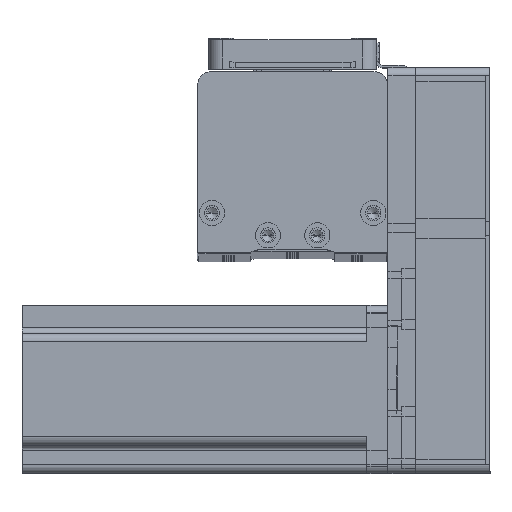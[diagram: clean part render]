
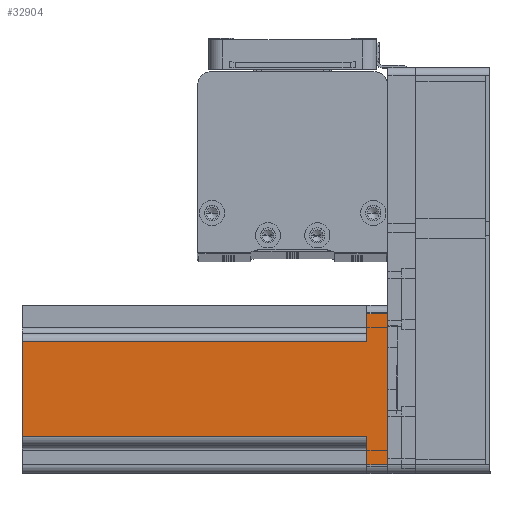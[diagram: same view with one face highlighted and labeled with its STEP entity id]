
A CAD part, top view. The second image highlights one B-rep face of the part: STEP entity #32904.
In plain terms, the highlighted planar face has unit normal (0, 0, 1) as drawn and (0, 1, 0) by its records, which use the part's own axes.
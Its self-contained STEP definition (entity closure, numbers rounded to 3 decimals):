
#794 = CARTESIAN_POINT ( 'NONE',  ( 17., 30., 7.5 ) ) ;
#1066 = VERTEX_POINT ( 'NONE', #47254 ) ;
#1736 = CARTESIAN_POINT ( 'NONE',  ( -27., 30., 7.5 ) ) ;
#2194 = CARTESIAN_POINT ( 'NONE',  ( -17., 30., 7.5 ) ) ;
#3804 = VECTOR ( 'NONE', #53882, 1000. ) ;
#5123 = EDGE_CURVE ( 'NONE', #27758, #1066, #7683, .T. ) ;
#5526 = DIRECTION ( 'NONE',  ( 0., 0., -1. ) ) ;
#7683 = LINE ( 'NONE', #17535, #50566 ) ;
#9000 = DIRECTION ( 'NONE',  ( 0., -1., 0. ) ) ;
#9133 = VERTEX_POINT ( 'NONE', #31824 ) ;
#10372 = VECTOR ( 'NONE', #5526, 1000. ) ;
#10410 = CARTESIAN_POINT ( 'NONE',  ( 30., 30., 0. ) ) ;
#10529 = LINE ( 'NONE', #51125, #52156 ) ;
#10605 = DIRECTION ( 'NONE',  ( -1., 0., 0. ) ) ;
#11549 = VERTEX_POINT ( 'NONE', #24323 ) ;
#11690 = LINE ( 'NONE', #13674, #10372 ) ;
#12945 = PLANE ( 'NONE',  #40637 ) ;
#13674 = CARTESIAN_POINT ( 'NONE',  ( 27., 30., 130.7 ) ) ;
#14589 = VECTOR ( 'NONE', #10605, 1000. ) ;
#17010 = CARTESIAN_POINT ( 'NONE',  ( 17., 30., 130.7 ) ) ;
#17535 = CARTESIAN_POINT ( 'NONE',  ( -17., 30., 130.7 ) ) ;
#20478 = ORIENTED_EDGE ( 'NONE', *, *, #39990, .T. ) ;
#20909 = EDGE_LOOP ( 'NONE', ( #44315, #35311, #28673, #43597, #33077, #20478, #29384, #43060 ) ) ;
#23888 = VECTOR ( 'NONE', #50276, 1000. ) ;
#24323 = CARTESIAN_POINT ( 'NONE',  ( 17., 30., 130.7 ) ) ;
#25188 = LINE ( 'NONE', #17010, #23888 ) ;
#25193 = CARTESIAN_POINT ( 'NONE',  ( -20., 30., 7.5 ) ) ;
#25632 = EDGE_CURVE ( 'NONE', #42600, #9133, #25677, .T. ) ;
#25677 = LINE ( 'NONE', #10410, #14589 ) ;
#26500 = DIRECTION ( 'NONE',  ( 0., 0., 1. ) ) ;
#26537 = VECTOR ( 'NONE', #53606, 1000. ) ;
#26672 = CARTESIAN_POINT ( 'NONE',  ( 27., 30., 7.5 ) ) ;
#27758 = VERTEX_POINT ( 'NONE', #2194 ) ;
#28673 = ORIENTED_EDGE ( 'NONE', *, *, #35349, .F. ) ;
#29384 = ORIENTED_EDGE ( 'NONE', *, *, #25632, .T. ) ;
#30424 = DIRECTION ( 'NONE',  ( -1., 0., 0. ) ) ;
#30467 = LINE ( 'NONE', #49425, #26537 ) ;
#31631 = LINE ( 'NONE', #51390, #53693 ) ;
#31824 = CARTESIAN_POINT ( 'NONE',  ( -27., 30., 0. ) ) ;
#32421 = EDGE_CURVE ( 'NONE', #9133, #53120, #31631, .T. ) ;
#32904 = ADVANCED_FACE ( 'NONE', ( #49759 ), #12945, .F. ) ;
#33077 = ORIENTED_EDGE ( 'NONE', *, *, #43984, .F. ) ;
#33338 = CARTESIAN_POINT ( 'NONE',  ( 27., 30., 0. ) ) ;
#33924 = CARTESIAN_POINT ( 'NONE',  ( 30., 30., 130.7 ) ) ;
#34509 = VERTEX_POINT ( 'NONE', #794 ) ;
#35311 = ORIENTED_EDGE ( 'NONE', *, *, #5123, .T. ) ;
#35349 = EDGE_CURVE ( 'NONE', #11549, #1066, #30467, .T. ) ;
#36063 = EDGE_CURVE ( 'NONE', #53120, #27758, #47979, .T. ) ;
#38089 = DIRECTION ( 'NONE',  ( 1., 0., 0. ) ) ;
#39990 = EDGE_CURVE ( 'NONE', #41075, #42600, #11690, .T. ) ;
#40637 = AXIS2_PLACEMENT_3D ( 'NONE', #33924, #9000, #38089 ) ;
#41075 = VERTEX_POINT ( 'NONE', #26672 ) ;
#42600 = VERTEX_POINT ( 'NONE', #33338 ) ;
#43060 = ORIENTED_EDGE ( 'NONE', *, *, #32421, .T. ) ;
#43597 = ORIENTED_EDGE ( 'NONE', *, *, #51553, .T. ) ;
#43984 = EDGE_CURVE ( 'NONE', #41075, #34509, #10529, .T. ) ;
#44315 = ORIENTED_EDGE ( 'NONE', *, *, #36063, .T. ) ;
#46569 = DIRECTION ( 'NONE',  ( 0., 0., 1. ) ) ;
#47254 = CARTESIAN_POINT ( 'NONE',  ( -17., 30., 130.7 ) ) ;
#47979 = LINE ( 'NONE', #25193, #3804 ) ;
#49425 = CARTESIAN_POINT ( 'NONE',  ( 30., 30., 130.7 ) ) ;
#49759 = FACE_OUTER_BOUND ( 'NONE', #20909, .T. ) ;
#50276 = DIRECTION ( 'NONE',  ( 0., 0., -1. ) ) ;
#50566 = VECTOR ( 'NONE', #46569, 1000. ) ;
#51125 = CARTESIAN_POINT ( 'NONE',  ( 20., 30., 7.5 ) ) ;
#51390 = CARTESIAN_POINT ( 'NONE',  ( -27., 30., 130.7 ) ) ;
#51553 = EDGE_CURVE ( 'NONE', #11549, #34509, #25188, .T. ) ;
#52156 = VECTOR ( 'NONE', #30424, 1000. ) ;
#53120 = VERTEX_POINT ( 'NONE', #1736 ) ;
#53606 = DIRECTION ( 'NONE',  ( -1., 0., 0. ) ) ;
#53693 = VECTOR ( 'NONE', #26500, 1000. ) ;
#53882 = DIRECTION ( 'NONE',  ( 1., 0., 0. ) ) ;
